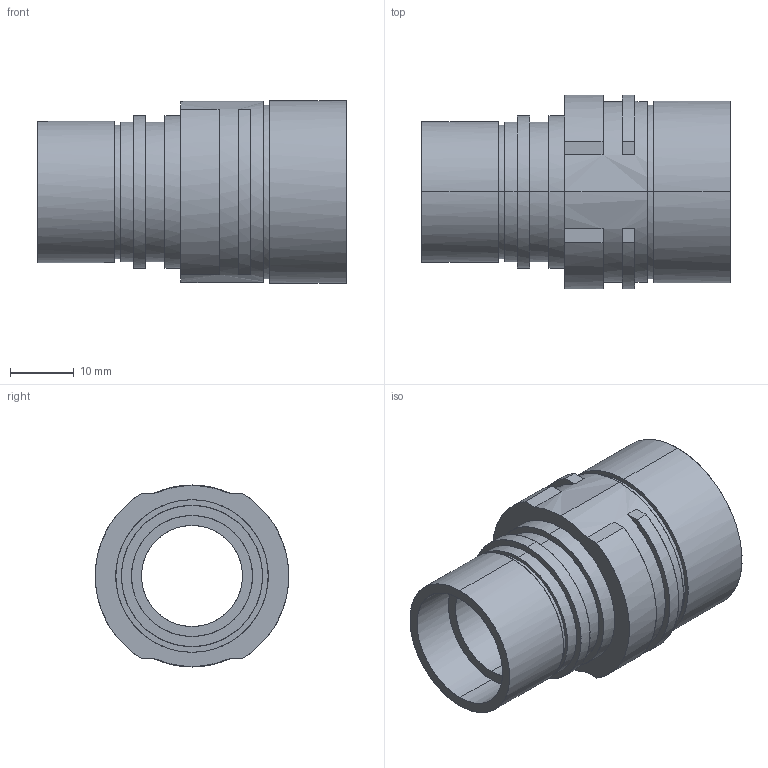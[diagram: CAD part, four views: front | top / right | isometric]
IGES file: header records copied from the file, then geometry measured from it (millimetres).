
Start section: Comment
Global section: file name: 70-25.4RU19.05-P.igs; native system:  By Spatial Corp.; preprocessor: XPlus GENERIC/IGES 3.0; author: Author; organization: Title; date: 20100222.114341; units: inch
Bounding box: 48.5 x 30.44 x 28.65 mm (x, y, z)
Surface area: 8346 mm2 (no closed solid volume)
Topology: 0 solids, 0 shells, 62 faces, 272 edges, 272 vertices
Faces by surface type: bspline 62
